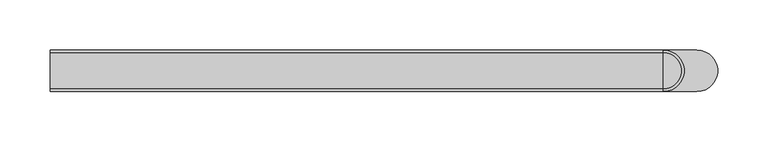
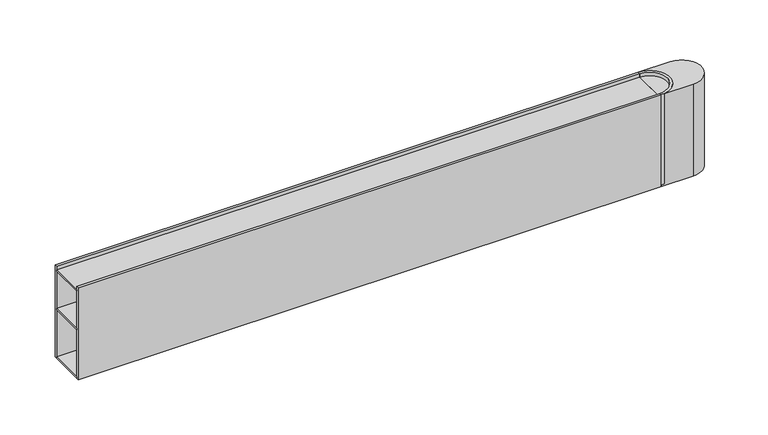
"""IFC4 building model written with IfcOpenShell, lengths in millimetres: light fixture geometry, Lighting-Ceiling-Betacalco-Block-Straight : BLKC-DT1-PW01-TR01-SL04-EP01-LP020-CR80-CTA40."""

from ifc_helpers import new_model, si_unit, point, frame, frame_2d, origin, origin_with_axes, place, context, project, spatial, polyline, circle_curve, trimmed, segment, composite_curve, outline, extrude, source, transform, mapped, element, save
from ifc_brep_helpers import plane_surface, cylinder_surface, revolved_surface, advanced_brep


def light_fixture_2741b592(model_context):
    return source(origin(), model_context, "Body", "SolidModel", [
        extrude(outline(composite_curve([segment(polyline([(304.8, -20.6375), (304.8, -18.0975)]), True, "CONTINUOUS"), segment(trimmed(circle_curve(frame_2d((304.8, 0.0)), 18.0975), [point((304.8, -18.0975))], [point((304.8, 18.0975))], True, "CARTESIAN"), True, "CONTINUOUS"), segment(polyline([(304.8, 18.0975), (304.8, 20.6375)]), True, "CONTINUOUS"), segment(trimmed(circle_curve(frame_2d((304.8, 0.0)), 20.6375), [point((304.8, 20.6375))], [point((304.8, -20.6375))], False, "CARTESIAN"), True, "CONTINUOUS")], self_intersect=False)), frame((0.0, 0.0, 1.5875), z_axis=(0.0, 0.0, 1.0), x_axis=(1.0, 0.0, 0.0)), (0.0, 0.0, 1.0), 100.0125),
        extrude(outline(composite_curve([segment(polyline([(304.8, -18.0975), (304.8, 18.0975)]), True, "CONTINUOUS"), segment(trimmed(circle_curve(frame_2d((304.8, 0.0)), 18.0975), [point((304.8, 18.0975))], [point((304.8, -18.0975))], False, "CARTESIAN"), True, "CONTINUOUS")], self_intersect=False)), frame((0.0, 0.0, 96.3095588), z_axis=(0.0, 0.0, 1.0), x_axis=(1.0, 0.0, 0.0)), (0.0, 0.0, 1.0), 1.5875),
        advanced_brep(
        [(304.8, 20.6375, 1.5875), (304.8, -20.6375, 1.5875), (304.8, -20.6375, 0.0), (304.8, 20.6375, 0.0), (338.1375, 20.6375, 0.0), (338.1375, -20.6375, 0.0), (304.8, 20.6375, 101.6), (304.8, -20.6375, 101.6), (338.1375, -20.6375, 101.6), (338.1375, 20.6375, 101.6)],
        [
            (0, 1),
            (1, 0, circle_curve(frame((304.8, 0.0, 1.5875), z_axis=(0.0, 0.0, 1.0), x_axis=(1.0, 0.0, 0.0)), 20.6375)),
            (2, 3),
            (3, 4),
            (4, 5, circle_curve(frame((338.1375, 0.0, 0.0), z_axis=(0.0, 0.0, -1.0), x_axis=(1.0, 0.0, 0.0)), 20.6375)),
            (5, 2),
            (0, 3),
            (2, 1),
            (6, 7, circle_curve(frame((304.8, 0.0, 101.6), z_axis=(0.0, 0.0, -1.0), x_axis=(1.0, 0.0, 0.0)), 20.6375)),
            (7, 8),
            (8, 9, circle_curve(frame((338.1375, 0.0, 101.6), z_axis=(0.0, 0.0, 1.0), x_axis=(1.0, 0.0, 0.0)), 20.6375)),
            (9, 6),
            (6, 0),
            (1, 7),
            (5, 8),
            (4, 9),
        ],
        [
            plane_surface(frame((325.4375, 0.0, 1.5875), z_axis=(0.0, 0.0, 1.0), x_axis=(0.0, 1.0, 0.0))),
            plane_surface(frame((325.4375, 0.0, 0.0), z_axis=(0.0, 0.0, -1.0), x_axis=(0.0, -1.0, 0.0))),
            plane_surface(frame((304.8, 20.6375, 1.5875), z_axis=(-1.0, 0.0, 0.0), x_axis=(0.0, 0.0, -1.0))),
            plane_surface(frame((325.4375, 0.0, 101.6), z_axis=(0.0, 0.0, 1.0), x_axis=(0.0, -1.0, 0.0))),
            revolved_surface(polyline([(325.4375, 0.0, 1.5875), (325.4375, 0.0, 101.6)]), (304.8, 0.0, 0.0), (0.0, 0.0, -1.0)),
            plane_surface(frame((304.8, -20.6375, 101.6), z_axis=(0.0, -1.0, 0.0), x_axis=(0.0, 0.0, -1.0))),
            cylinder_surface(frame((338.1375, 0.0, 0.0), z_axis=(0.0, 0.0, 1.0), x_axis=(1.0, 0.0, 0.0)), 20.6375),
            plane_surface(frame((338.1375, 20.6375, 101.6), z_axis=(0.0, 1.0, 0.0), x_axis=(0.0, 0.0, -1.0))),
        ],
        [
            (0, [[1, 2]]),
            (1, [[3, 4, 5, 6]]),
            (2, [[-1, 7, -3, 8]]),
            (3, [[9, 10, 11, 12]]),
            (4, [[-9, 13, -2, 14]]),
            (5, [[-10, -14, -8, -6, 15]]),
            (6, [[-11, -15, -5, 16]]),
            (7, [[-12, -16, -4, -7, -13]]),
        ],
    ),
        extrude(outline(polyline([(304.8, 18.0975), (304.8, -18.0975), (-304.8, -18.0975), (-304.8, 18.0975), (304.8, 18.0975)])), frame((0.0, 0.0, 96.3095588), z_axis=(0.0, 0.0, 1.0), x_axis=(1.0, 0.0, 0.0)), (0.0, 0.0, 1.0), 1.5875),
        extrude(outline(polyline([(304.8, 18.0975), (304.8, -18.0975), (-304.8, -18.0975), (-304.8, 18.0975), (304.8, 18.0975)])), frame((0.0, 0.0, 53.687913), z_axis=(0.0, 0.0, 1.0), x_axis=(1.0, 0.0, 0.0)), (0.0, 0.0, 1.0), 1.5875),
        extrude(outline(polyline([(304.8, 18.0975), (304.8, -18.0975), (-304.8, -18.0975), (-304.8, 18.0975), (304.8, 18.0975)])), origin_with_axes(), (0.0, 0.0, 1.0), 1.5875),
        extrude(outline(polyline([(304.8, 20.6375), (304.8, 18.0975), (-304.8, 18.0975), (-304.8, 20.6375), (304.8, 20.6375)])), origin_with_axes(), (0.0, 0.0, 1.0), 101.6),
        extrude(outline(polyline([(304.8, -18.0975), (304.8, -20.6375), (-304.8, -20.6375), (-304.8, -18.0975), (304.8, -18.0975)])), origin_with_axes(), (0.0, 0.0, 1.0), 101.6),
    ])


if __name__ == "__main__":
    model = new_model("IFC4")
    model_context = context("Model", 3, world=origin())
    ifc_project = project(units=[si_unit("LENGTHUNIT", "METRE", prefix="MILLI")], contexts=[model_context])
    site = spatial("IfcSite", under=ifc_project)
    building = spatial("IfcBuilding", under=site)
    placement = place(None, origin())
    light_fixture_shape = light_fixture_2741b592(model_context)
    element("IfcLightFixture", 1, ObjectType="Lighting-Ceiling-Betacalco-Block-Straight : BLKC-DT1-PW01-TR01-SL04-EP01-LP020-CR80-CTA40", at=placement, inside=building, context=model_context, shape_type="MappedRepresentation", body=[
        mapped(light_fixture_shape, transform((0.0, 0.0, 0.0), x_axis=(1.0, 0.0, 0.0), y_axis=(0.0, 1.0, 0.0), z_axis=(0.0, 0.0, 1.0))),
    ])
    save(model, "model.ifc")
